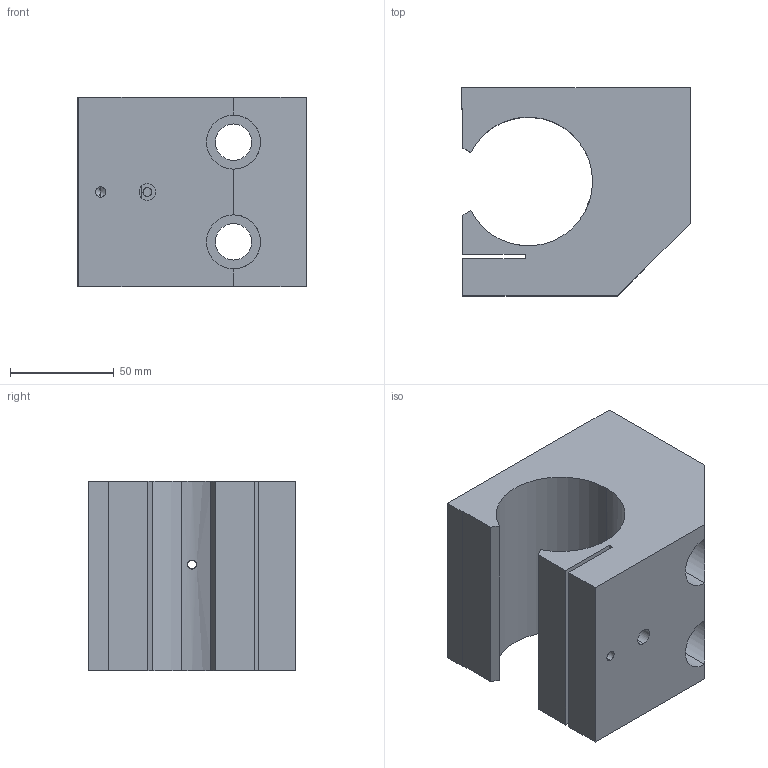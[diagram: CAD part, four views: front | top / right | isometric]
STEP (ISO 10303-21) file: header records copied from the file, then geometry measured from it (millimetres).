
FILE_DESCRIPTION (( 'STEP AP214' ), '1' );
FILE_NAME ('KGSE72-40.step', '2020-03-04T13:24:39', ( '' ), ( '' ), 'SwSTEP 2.0', 'SolidWorks 2019', '' );
FILE_SCHEMA (( 'AUTOMOTIVE_DESIGN' ));
Length unit declared in the file: millimetre
Products named in the file (1): KGSE72-40
Bounding box: 110 x 100 x 91 mm (x, y, z)
Volume: 589027.2 mm3; surface area: 81530.7 mm2
Topology: 1 solids, 1 shells, 43 faces, 114 edges, 73 vertices
Faces by surface type: cylinder 20, plane 19, cone 4
Entity records: 1600 total; most frequent: CARTESIAN_POINT 355, DIRECTION 232, ORIENTED_EDGE 224, EDGE_CURVE 112, AXIS2_PLACEMENT_3D 82, VERTEX_POINT 73, LINE 68, VECTOR 68
